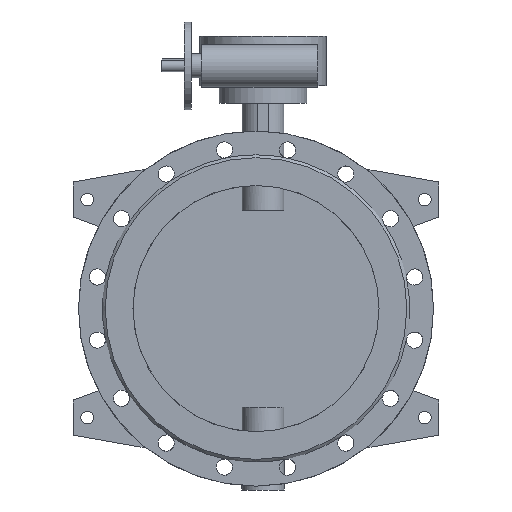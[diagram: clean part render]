
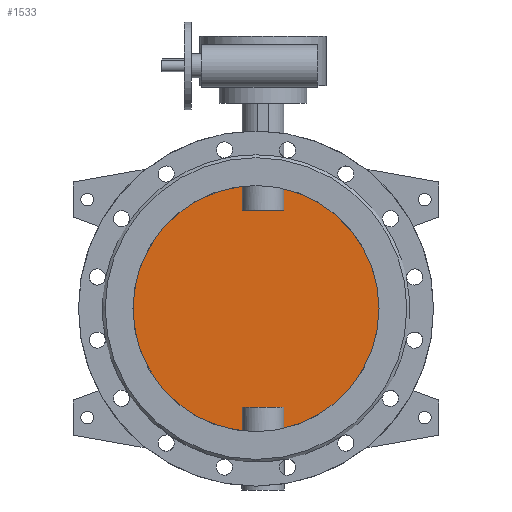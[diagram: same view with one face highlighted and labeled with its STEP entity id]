
A CAD part, front view. The second image highlights one B-rep face of the part: STEP entity #1533.
In plain terms, the highlighted planar face has unit normal (0, -1, 0).
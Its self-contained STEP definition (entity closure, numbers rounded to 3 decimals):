
#1533=ADVANCED_FACE('',(#3157),#3159,.F.);
#3157=FACE_BOUND('',#3158,.T.);
#3158=EDGE_LOOP('',(#4090,#4091,#4092,#4093,#4094,#4095,#4096,#4097));
#3159=PLANE('',#3160);
#3160=AXIS2_PLACEMENT_3D('',#3161,#3162,#3163);
#3161=CARTESIAN_POINT('',(0.,-5.,0.));
#3162=DIRECTION('',(0.,1.,0.));
#3163=DIRECTION('',(1.,0.,0.));
#4090=ORIENTED_EDGE('',*,*,#4559,.T.);
#4091=ORIENTED_EDGE('',*,*,#4565,.T.);
#4092=ORIENTED_EDGE('',*,*,#4566,.T.);
#4093=ORIENTED_EDGE('',*,*,#4567,.T.);
#4094=ORIENTED_EDGE('',*,*,#4561,.T.);
#4095=ORIENTED_EDGE('',*,*,#4568,.T.);
#4096=ORIENTED_EDGE('',*,*,#4569,.T.);
#4097=ORIENTED_EDGE('',*,*,#4570,.T.);
#4559=EDGE_CURVE('',#5314,#5315,#5316,.F.);
#4561=EDGE_CURVE('',#5319,#5317,#5320,.F.);
#4565=EDGE_CURVE('',#5315,#5326,#5327,.T.);
#4566=EDGE_CURVE('',#5326,#5328,#5329,.F.);
#4567=EDGE_CURVE('',#5328,#5319,#5330,.F.);
#4568=EDGE_CURVE('',#5317,#5331,#5332,.F.);
#4569=EDGE_CURVE('',#5331,#5333,#5334,.F.);
#4570=EDGE_CURVE('',#5333,#5314,#5335,.T.);
#5314=VERTEX_POINT('',#8130);
#5315=VERTEX_POINT('',#8131);
#5316=CIRCLE('',#8132,175.);
#5317=VERTEX_POINT('',#8136);
#5319=VERTEX_POINT('',#8239);
#5320=CIRCLE('',#8240,175.);
#5326=VERTEX_POINT('',#8357);
#5327=LINE('',#8358,#8359);
#5328=VERTEX_POINT('',#8361);
#5329=LINE('',#8362,#8363);
#5330=LINE('',#8365,#8366);
#5331=VERTEX_POINT('',#8368);
#5332=LINE('',#8369,#8370);
#5333=VERTEX_POINT('',#8372);
#5334=LINE('',#8373,#8374);
#5335=LINE('',#8376,#8377);
#8130=CARTESIAN_POINT('',(39.58,-5.,-170.465));
#8131=CARTESIAN_POINT('',(39.58,-5.,170.465));
#8132=AXIS2_PLACEMENT_3D('',#8133,#8134,#8135);
#8133=CARTESIAN_POINT('',(0.,-5.,0.));
#8134=DIRECTION('',(0.,1.,0.));
#8135=DIRECTION('',(0.226,0.,0.974));
#8136=CARTESIAN_POINT('',(-19.58,-5.,-173.901));
#8239=CARTESIAN_POINT('',(-19.58,-5.,173.901));
#8240=AXIS2_PLACEMENT_3D('',#8241,#8242,#8243);
#8241=CARTESIAN_POINT('',(0.,-5.,0.));
#8242=DIRECTION('',(0.,1.,0.));
#8243=DIRECTION('',(-0.112,0.,-0.994));
#8357=CARTESIAN_POINT('',(39.58,-5.,140.));
#8358=CARTESIAN_POINT('',(39.58,-5.,170.465));
#8359=VECTOR('',#8360,1.);
#8360=DIRECTION('',(0.,0.,-1.));
#8361=CARTESIAN_POINT('',(-19.58,-5.,140.));
#8362=CARTESIAN_POINT('',(-19.58,-5.,140.));
#8363=VECTOR('',#8364,1.);
#8364=DIRECTION('',(1.,0.,0.));
#8365=CARTESIAN_POINT('',(-19.58,-5.,173.901));
#8366=VECTOR('',#8367,1.);
#8367=DIRECTION('',(0.,0.,-1.));
#8368=CARTESIAN_POINT('',(-19.58,-5.,-140.));
#8369=CARTESIAN_POINT('',(-19.58,-5.,-140.));
#8370=VECTOR('',#8371,1.);
#8371=DIRECTION('',(0.,0.,-1.));
#8372=CARTESIAN_POINT('',(39.58,-5.,-140.));
#8373=CARTESIAN_POINT('',(39.58,-5.,-140.));
#8374=VECTOR('',#8375,1.);
#8375=DIRECTION('',(-1.,0.,0.));
#8376=CARTESIAN_POINT('',(39.58,-5.,-140.));
#8377=VECTOR('',#8378,1.);
#8378=DIRECTION('',(0.,0.,-1.));
